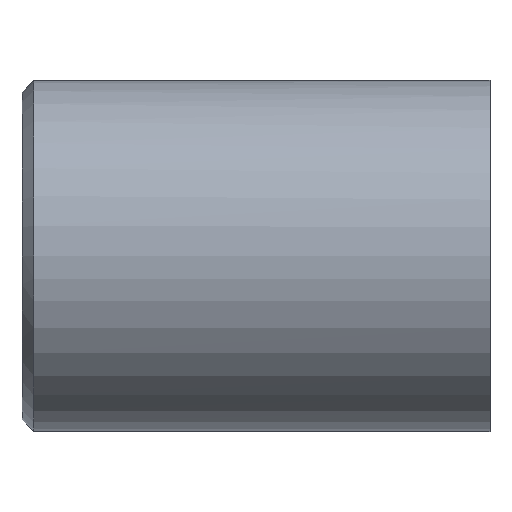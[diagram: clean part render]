
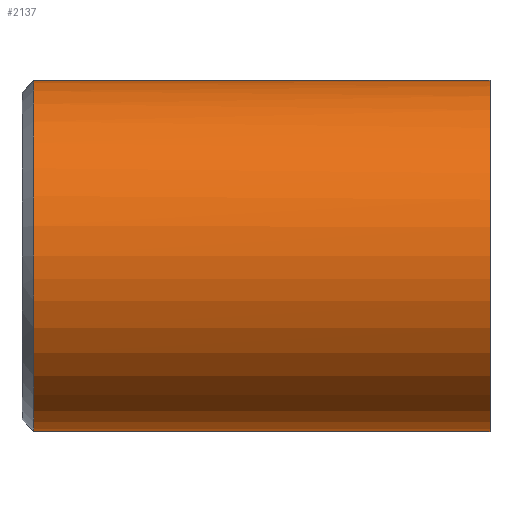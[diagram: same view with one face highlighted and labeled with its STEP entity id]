
A CAD part, front view. The second image highlights one B-rep face of the part: STEP entity #2137.
In plain terms, the highlighted cylindrical face has radius 3 mm (diameter 6 mm), a partial arc.
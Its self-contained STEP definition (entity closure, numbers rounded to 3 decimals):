
#124=CARTESIAN_POINT('Vertex',(0.,0.,-3.)) ;
#130=CARTESIAN_POINT('Control Point',(0.,-3.,0.)) ;
#131=CARTESIAN_POINT('Control Point',(0.,-3.,-0.339)) ;
#132=CARTESIAN_POINT('Control Point',(0.,-2.952,-0.679)) ;
#133=CARTESIAN_POINT('Control Point',(0.,-2.856,-1.009)) ;
#134=CARTESIAN_POINT('Control Point',(0.,-2.573,-1.634)) ;
#135=CARTESIAN_POINT('Control Point',(0.,-2.128,-2.155)) ;
#136=CARTESIAN_POINT('Control Point',(0.,-1.87,-2.383)) ;
#137=CARTESIAN_POINT('Control Point',(0.,-1.361,-2.717)) ;
#138=CARTESIAN_POINT('Control Point',(0.,-0.787,-2.913)) ;
#139=CARTESIAN_POINT('Control Point',(0.,-0.527,-2.971)) ;
#140=CARTESIAN_POINT('Control Point',(0.,-0.264,-3.)) ;
#141=CARTESIAN_POINT('Control Point',(0.,0.,-3.)) ;
#142=CARTESIAN_POINT('Vertex',(0.,-3.,0.)) ;
#146=CARTESIAN_POINT('Control Point',(0.,0.,3.)) ;
#147=CARTESIAN_POINT('Control Point',(0.,-0.076,3.)) ;
#148=CARTESIAN_POINT('Control Point',(0.,-0.152,2.998)) ;
#149=CARTESIAN_POINT('Control Point',(0.,-0.227,2.993)) ;
#150=CARTESIAN_POINT('Control Point',(0.,-0.641,2.954)) ;
#151=CARTESIAN_POINT('Control Point',(0.,-1.045,2.843)) ;
#152=CARTESIAN_POINT('Control Point',(0.,-1.361,2.706)) ;
#153=CARTESIAN_POINT('Control Point',(0.,-1.945,2.347)) ;
#154=CARTESIAN_POINT('Control Point',(0.,-2.406,1.84)) ;
#155=CARTESIAN_POINT('Control Point',(0.,-2.599,1.555)) ;
#156=CARTESIAN_POINT('Control Point',(0.,-2.833,1.077)) ;
#157=CARTESIAN_POINT('Control Point',(0.,-2.956,0.562)) ;
#158=CARTESIAN_POINT('Control Point',(0.,-2.985,0.376)) ;
#159=CARTESIAN_POINT('Control Point',(0.,-3.,0.188)) ;
#160=CARTESIAN_POINT('Control Point',(0.,-3.,0.)) ;
#161=CARTESIAN_POINT('Vertex',(0.,0.,3.)) ;
#2071=CARTESIAN_POINT('Line Origine',(8.,0.,3.)) ;
#2075=CARTESIAN_POINT('Vertex',(7.8,0.,3.)) ;
#2092=CARTESIAN_POINT('Vertex',(7.8,0.,-3.)) ;
#2095=CARTESIAN_POINT('Line Origine',(8.,0.,-3.)) ;
#2109=CARTESIAN_POINT('Axis2P3D Location',(8.,0.,0.)) ;
#2114=CARTESIAN_POINT('Axis2P3D Location',(7.8,0.,0.)) ;
#2118=CARTESIAN_POINT('Vertex',(7.8,-3.,0.)) ;
#2122=CARTESIAN_POINT('Control Point',(7.8,0.,3.)) ;
#2123=CARTESIAN_POINT('Control Point',(7.8,-0.942,3.)) ;
#2124=CARTESIAN_POINT('Control Point',(7.8,-1.886,2.631)) ;
#2125=CARTESIAN_POINT('Control Point',(7.8,-2.631,1.886)) ;
#2126=CARTESIAN_POINT('Control Point',(7.8,-3.,0.942)) ;
#2127=CARTESIAN_POINT('Control Point',(7.8,-3.,0.)) ;
#2072=DIRECTION('Vector Direction',(-1.,0.,0.)) ;
#2096=DIRECTION('Vector Direction',(-1.,0.,0.)) ;
#2110=DIRECTION('Axis2P3D Direction',(-1.,-0.,-0.)) ;
#2111=DIRECTION('Axis2P3D XDirection',(0.,0.,-1.)) ;
#2115=DIRECTION('Axis2P3D Direction',(-1.,-0.,-0.)) ;
#2112=AXIS2_PLACEMENT_3D('Cylinder Axis2P3D',#2109,#2110,#2111) ;
#2116=AXIS2_PLACEMENT_3D('Circle Axis2P3D',#2114,#2115,$) ;
#2130=ORIENTED_EDGE('',*,*,#2099,.T.) ;
#2131=ORIENTED_EDGE('',*,*,#2120,.F.) ;
#2132=ORIENTED_EDGE('',*,*,#2128,.F.) ;
#2133=ORIENTED_EDGE('',*,*,#2077,.T.) ;
#2134=ORIENTED_EDGE('',*,*,#163,.T.) ;
#2135=ORIENTED_EDGE('',*,*,#144,.T.) ;
#2073=VECTOR('Line Direction',#2072,1.) ;
#2097=VECTOR('Line Direction',#2096,1.) ;
#2137=ADVANCED_FACE('D375-6-A-DM-FA',(#2136),#2113,.T.) ;
#129=B_SPLINE_CURVE_WITH_KNOTS('',5,(#130,#131,#132,#133,#134,#135,#136,#137,#138,#139,#140,#141),.UNSPECIFIED.,.F.,.U.,(6,3,3,6),(0.,2.4,4.8,6.664),.UNSPECIFIED.) ;
#145=B_SPLINE_CURVE_WITH_KNOTS('',5,(#146,#147,#148,#149,#150,#151,#152,#153,#154,#155,#156,#157,#158,#159,#160),.UNSPECIFIED.,.F.,.U.,(6,3,3,3,6),(6.664,7.2,9.6,12.,13.328),.UNSPECIFIED.) ;
#2121=B_SPLINE_CURVE_WITH_KNOTS('',5,(#2122,#2123,#2124,#2125,#2126,#2127),.UNSPECIFIED.,.F.,.U.,(6,6),(-2.356,2.356),.UNSPECIFIED.) ;
#2117=CIRCLE('generated circle',#2116,3.) ;
#2113=CYLINDRICAL_SURFACE('generated cylinder',#2112,3.) ;
#144=EDGE_CURVE('',#143,#125,#129,.T.) ;
#163=EDGE_CURVE('',#162,#143,#145,.T.) ;
#2077=EDGE_CURVE('',#2076,#162,#2074,.T.) ;
#2099=EDGE_CURVE('',#125,#2093,#2098,.F.) ;
#2120=EDGE_CURVE('',#2119,#2093,#2117,.F.) ;
#2128=EDGE_CURVE('',#2076,#2119,#2121,.T.) ;
#2129=EDGE_LOOP('',(#2130,#2131,#2132,#2133,#2134,#2135)) ;
#2136=FACE_OUTER_BOUND('',#2129,.T.) ;
#2074=LINE('Line',#2071,#2073) ;
#2098=LINE('Line',#2095,#2097) ;
#125=VERTEX_POINT('',#124) ;
#143=VERTEX_POINT('',#142) ;
#162=VERTEX_POINT('',#161) ;
#2076=VERTEX_POINT('',#2075) ;
#2093=VERTEX_POINT('',#2092) ;
#2119=VERTEX_POINT('',#2118) ;
